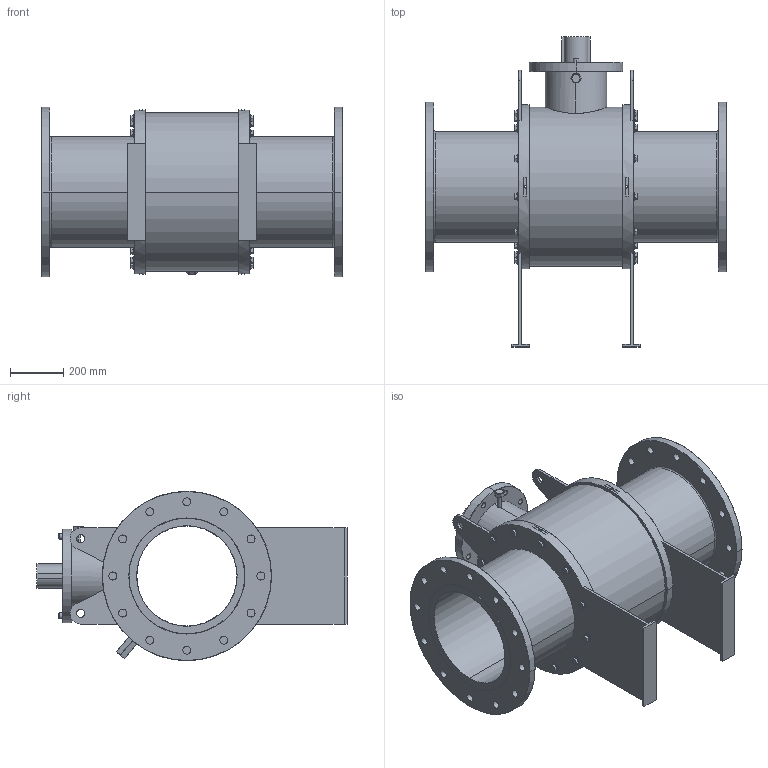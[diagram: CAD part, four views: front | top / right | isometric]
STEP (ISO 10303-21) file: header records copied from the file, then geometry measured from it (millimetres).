
FILE_DESCRIPTION (( 'STEP AP203' ), '1' );
FILE_NAME ('GB2_ANSI_900_16IN_TW.STEP', '2025-10-09T15:11:17', ( '' ), ( '' ), 'SwSTEP 2.0', 'SolidWorks 2025', '' );
FILE_SCHEMA (( 'CONFIG_CONTROL_DESIGN' ));
Length unit declared in the file: millimetre
Products named in the file (3): hex flange screw_am_B18.2.3.4M - Hex flange screw, M16 x 2.0 x 25 --25N; GB2_ANSI_900_16IN_TW; GB2_ANSI_2500_1500_ANSI_900_16IN
Assembly tree (25 placements, depth 2):
  GB2_ANSI_900_16IN_TW
    GB2_ANSI_2500_1500_ANSI_900_16IN
    hex flange screw_am_B18.2.3.4M - Hex flange screw, M16 x 2.0 x 25 --25N  x24
Bounding box: 1130 x 1161.5 x 635 mm (x, y, z)
Volume: 114623769.7 mm3; surface area: 5365527.2 mm2
Topology: 25 solids, 25 shells, 1041 faces, 2326 edges, 1392 vertices
Faces by surface type: plane 325, cone 270, cylinder 230, bspline 156, torus 54, sphere 6
Entity records: 13995 total; most frequent: CARTESIAN_POINT 3978, DIRECTION 2022, ORIENTED_EDGE 1792, EDGE_CURVE 896, AXIS2_PLACEMENT_3D 820, VERTEX_POINT 562, EDGE_LOOP 492, CIRCLE 436
